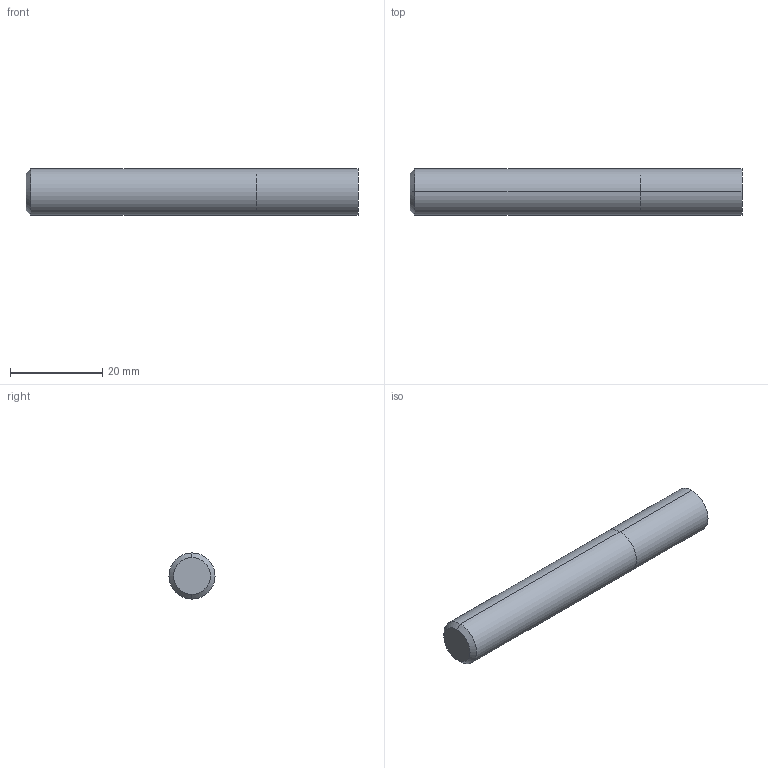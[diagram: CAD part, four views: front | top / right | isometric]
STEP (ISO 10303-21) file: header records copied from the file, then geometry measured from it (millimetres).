
FILE_DESCRIPTION (( 'STEP AP214' ), '1' );
FILE_NAME ('EM814100.STEP', '2018-07-01T22:45:22', ( '' ), ( '' ), 'SwSTEP 2.0', 'SolidWorks 2014', '' );
FILE_SCHEMA (( 'AUTOMOTIVE_DESIGN' ));
Length unit declared in the file: millimetre
Products named in the file (1): EM814100
Bounding box: 72 x 10 x 10 mm (x, y, z)
Volume: 5640.2 mm3; surface area: 2556.4 mm2
Topology: 2 solids, 2 shells, 10 faces, 16 edges, 10 vertices
Faces by surface type: cylinder 4, plane 4, cone 2
Entity records: 321 total; most frequent: DIRECTION 48, CARTESIAN_POINT 37, ORIENTED_EDGE 32, AXIS2_PLACEMENT_3D 21, EDGE_CURVE 16, CIRCLE 10, ADVANCED_FACE 10, EDGE_LOOP 10
